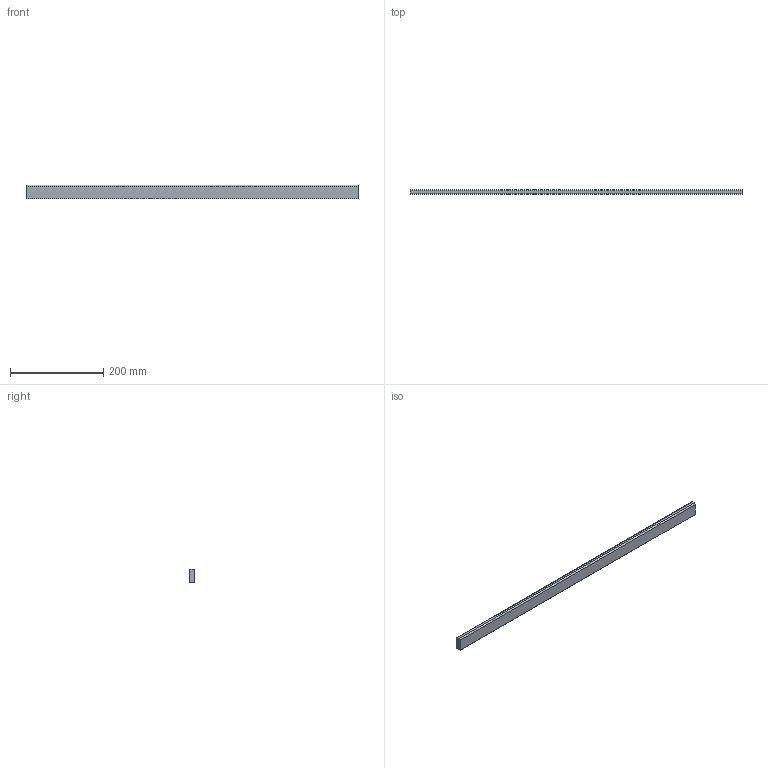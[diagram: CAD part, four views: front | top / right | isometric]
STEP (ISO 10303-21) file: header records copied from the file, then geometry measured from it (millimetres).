
FILE_DESCRIPTION (( 'STEP AP214' ), '1' );
FILE_NAME ('_Querreling_KAB-800_KS-16.step', '2010-08-26T14:59:03', ( 'grass' ), ( '' ), 'SwSTEP 2.0', 'SolidWorks 2009', '' );
FILE_SCHEMA (( 'AUTOMOTIVE_DESIGN' ));
Length unit declared in the file: millimetre
Products named in the file (1): _Querreling_KAB-800_KS-16
Bounding box: 712.5 x 10.5 x 30 mm (x, y, z)
Volume: 221379.4 mm3; surface area: 55887.5 mm2
Topology: 1 solids, 1 shells, 10 faces, 24 edges, 16 vertices
Faces by surface type: plane 6, cylinder 4
Entity records: 330 total; most frequent: DIRECTION 54, CARTESIAN_POINT 51, ORIENTED_EDGE 48, EDGE_CURVE 24, AXIS2_PLACEMENT_3D 19, VECTOR 16, LINE 16, VERTEX_POINT 16
